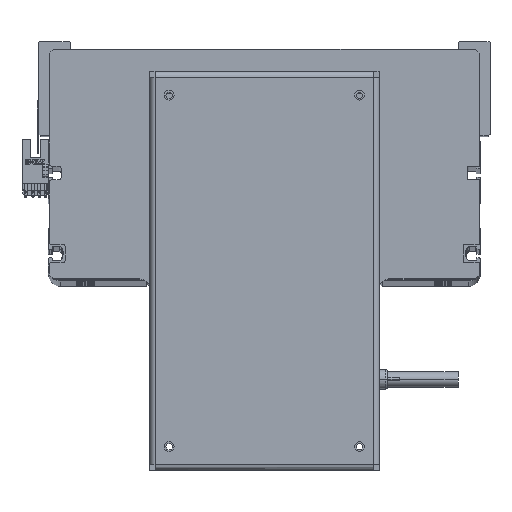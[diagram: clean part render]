
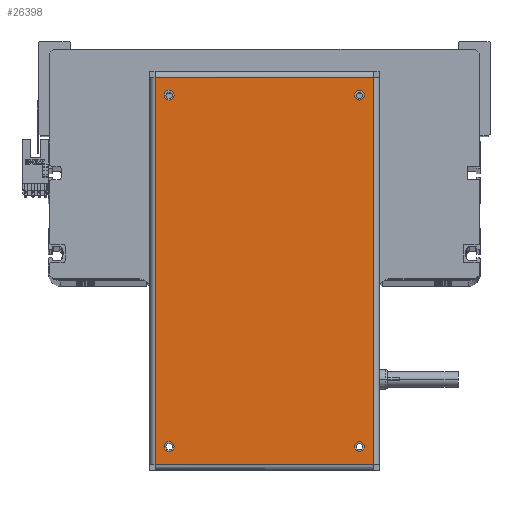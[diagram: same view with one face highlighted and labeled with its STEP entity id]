
A CAD part, top view. The second image highlights one B-rep face of the part: STEP entity #26398.
In plain terms, the highlighted planar face has unit normal (0, 0, 1).
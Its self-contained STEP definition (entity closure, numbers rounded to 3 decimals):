
#135 = AXIS2_PLACEMENT_3D ( 'NONE', #20841, #33473, #13725 ) ;
#475 = VERTEX_POINT ( 'NONE', #2406 ) ;
#537 = CARTESIAN_POINT ( 'NONE',  ( 98.75, 55.6, 0. ) ) ;
#932 = EDGE_LOOP ( 'NONE', ( #16877, #10196 ) ) ;
#1059 = VERTEX_POINT ( 'NONE', #30008 ) ;
#1129 = CARTESIAN_POINT ( 'NONE',  ( -92.05, 48.5, 0. ) ) ;
#1439 = EDGE_CURVE ( 'NONE', #4990, #24558, #30830, .T. ) ;
#1557 = VECTOR ( 'NONE', #33724, 1000. ) ;
#1594 = CARTESIAN_POINT ( 'NONE',  ( 89.55, -48.5, 0. ) ) ;
#1600 = ORIENTED_EDGE ( 'NONE', *, *, #21451, .T. ) ;
#1888 = CIRCLE ( 'NONE', #24452, 2.5 ) ;
#2319 = EDGE_CURVE ( 'NONE', #30856, #35644, #24113, .T. ) ;
#2388 = EDGE_CURVE ( 'NONE', #24558, #22974, #25666, .T. ) ;
#2406 = CARTESIAN_POINT ( 'NONE',  ( 87.05, 48.5, 0. ) ) ;
#2407 = CARTESIAN_POINT ( 'NONE',  ( -98.75, -55.6, 0. ) ) ;
#3273 = EDGE_LOOP ( 'NONE', ( #18484, #40506 ) ) ;
#3680 = EDGE_LOOP ( 'NONE', ( #28717, #25902 ) ) ;
#3904 = VECTOR ( 'NONE', #22396, 1000. ) ;
#4237 = CARTESIAN_POINT ( 'NONE',  ( -98.65, 55.6, 0. ) ) ;
#4449 = DIRECTION ( 'NONE',  ( 1., 0., 0. ) ) ;
#4815 = VERTEX_POINT ( 'NONE', #25531 ) ;
#4892 = DIRECTION ( 'NONE',  ( 0., 0., 1. ) ) ;
#4990 = VERTEX_POINT ( 'NONE', #29799 ) ;
#5201 = EDGE_CURVE ( 'NONE', #4815, #475, #39799, .T. ) ;
#5520 = VERTEX_POINT ( 'NONE', #30619 ) ;
#8763 = CARTESIAN_POINT ( 'NONE',  ( -89.55, 48.5, 0. ) ) ;
#8903 = EDGE_CURVE ( 'NONE', #15174, #5520, #13067, .T. ) ;
#10196 = ORIENTED_EDGE ( 'NONE', *, *, #32934, .F. ) ;
#10446 = DIRECTION ( 'NONE',  ( 1., 0., 0. ) ) ;
#10541 = FACE_BOUND ( 'NONE', #3273, .T. ) ;
#10625 = DIRECTION ( 'NONE',  ( 0., -1., 0. ) ) ;
#11928 = ORIENTED_EDGE ( 'NONE', *, *, #2388, .T. ) ;
#12598 = EDGE_CURVE ( 'NONE', #12975, #16959, #1888, .T. ) ;
#12975 = VERTEX_POINT ( 'NONE', #32697 ) ;
#13067 = CIRCLE ( 'NONE', #23516, 2.5 ) ;
#13561 = DIRECTION ( 'NONE',  ( -1., 0., 0. ) ) ;
#13725 = DIRECTION ( 'NONE',  ( -1., 0., 0. ) ) ;
#13786 = CARTESIAN_POINT ( 'NONE',  ( -89.55, -48.5, 0. ) ) ;
#13973 = LINE ( 'NONE', #37145, #1557 ) ;
#14802 = DIRECTION ( 'NONE',  ( 0., 0., 1. ) ) ;
#15174 = VERTEX_POINT ( 'NONE', #24128 ) ;
#15264 = EDGE_CURVE ( 'NONE', #16959, #12975, #42324, .T. ) ;
#15353 = EDGE_CURVE ( 'NONE', #475, #4815, #23049, .T. ) ;
#16454 = CARTESIAN_POINT ( 'NONE',  ( -98.65, -55.6, 0. ) ) ;
#16877 = ORIENTED_EDGE ( 'NONE', *, *, #8903, .F. ) ;
#16959 = VERTEX_POINT ( 'NONE', #37139 ) ;
#17256 = FACE_BOUND ( 'NONE', #3680, .T. ) ;
#17516 = LINE ( 'NONE', #537, #23738 ) ;
#18484 = ORIENTED_EDGE ( 'NONE', *, *, #5201, .F. ) ;
#19622 = DIRECTION ( 'NONE',  ( 0., 0., 1. ) ) ;
#20841 = CARTESIAN_POINT ( 'NONE',  ( 98.75, 58.5, 0. ) ) ;
#20959 = AXIS2_PLACEMENT_3D ( 'NONE', #25277, #31594, #31729 ) ;
#21446 = FACE_BOUND ( 'NONE', #932, .T. ) ;
#21451 = EDGE_CURVE ( 'NONE', #22974, #1059, #13973, .T. ) ;
#21735 = CARTESIAN_POINT ( 'NONE',  ( 98.65, -55.6, 0. ) ) ;
#22396 = DIRECTION ( 'NONE',  ( 1., 0., 0. ) ) ;
#22543 = CARTESIAN_POINT ( 'NONE',  ( -87.05, 48.5, 0. ) ) ;
#22974 = VERTEX_POINT ( 'NONE', #21735 ) ;
#23049 = CIRCLE ( 'NONE', #20959, 2.5 ) ;
#23408 = EDGE_LOOP ( 'NONE', ( #42223, #24139 ) ) ;
#23516 = AXIS2_PLACEMENT_3D ( 'NONE', #13786, #26356, #36404 ) ;
#23738 = VECTOR ( 'NONE', #13561, 1000. ) ;
#24113 = CIRCLE ( 'NONE', #40700, 2.5 ) ;
#24128 = CARTESIAN_POINT ( 'NONE',  ( -87.05, -48.5, 0. ) ) ;
#24139 = ORIENTED_EDGE ( 'NONE', *, *, #12598, .F. ) ;
#24452 = AXIS2_PLACEMENT_3D ( 'NONE', #40286, #36959, #10446 ) ;
#24558 = VERTEX_POINT ( 'NONE', #16454 ) ;
#25046 = CARTESIAN_POINT ( 'NONE',  ( 89.55, 48.5, 0. ) ) ;
#25277 = CARTESIAN_POINT ( 'NONE',  ( 89.55, 48.5, 0. ) ) ;
#25531 = CARTESIAN_POINT ( 'NONE',  ( 92.05, 48.5, 0. ) ) ;
#25666 = LINE ( 'NONE', #2407, #3904 ) ;
#25852 = DIRECTION ( 'NONE',  ( 1., 0., 0. ) ) ;
#25902 = ORIENTED_EDGE ( 'NONE', *, *, #29842, .F. ) ;
#26356 = DIRECTION ( 'NONE',  ( 0., 0., 1. ) ) ;
#26398 = ADVANCED_FACE ( 'NONE', ( #21446, #17256, #42529, #10541, #29148 ), #39940, .F. ) ;
#27302 = AXIS2_PLACEMENT_3D ( 'NONE', #1594, #4892, #4449 ) ;
#27639 = DIRECTION ( 'NONE',  ( 1., 0., 0. ) ) ;
#27917 = CARTESIAN_POINT ( 'NONE',  ( -89.55, -48.5, 0. ) ) ;
#28372 = ORIENTED_EDGE ( 'NONE', *, *, #41580, .T. ) ;
#28717 = ORIENTED_EDGE ( 'NONE', *, *, #2319, .F. ) ;
#29071 = AXIS2_PLACEMENT_3D ( 'NONE', #38757, #19622, #25852 ) ;
#29148 = FACE_OUTER_BOUND ( 'NONE', #38280, .T. ) ;
#29799 = CARTESIAN_POINT ( 'NONE',  ( -98.65, 55.6, 0. ) ) ;
#29842 = EDGE_CURVE ( 'NONE', #35644, #30856, #41690, .T. ) ;
#30008 = CARTESIAN_POINT ( 'NONE',  ( 98.65, 55.6, 0. ) ) ;
#30619 = CARTESIAN_POINT ( 'NONE',  ( -92.05, -48.5, 0. ) ) ;
#30830 = LINE ( 'NONE', #4237, #33946 ) ;
#30856 = VERTEX_POINT ( 'NONE', #22543 ) ;
#31594 = DIRECTION ( 'NONE',  ( 0., 0., 1. ) ) ;
#31729 = DIRECTION ( 'NONE',  ( 1., 0., 0. ) ) ;
#31836 = DIRECTION ( 'NONE',  ( 0., 0., 1. ) ) ;
#32697 = CARTESIAN_POINT ( 'NONE',  ( 87.05, -48.5, 0. ) ) ;
#32934 = EDGE_CURVE ( 'NONE', #5520, #15174, #36701, .T. ) ;
#33473 = DIRECTION ( 'NONE',  ( 0., 0., -1. ) ) ;
#33724 = DIRECTION ( 'NONE',  ( 0., 1., 0. ) ) ;
#33946 = VECTOR ( 'NONE', #10625, 1000. ) ;
#35095 = DIRECTION ( 'NONE',  ( 1., 0., 0. ) ) ;
#35644 = VERTEX_POINT ( 'NONE', #1129 ) ;
#36402 = ORIENTED_EDGE ( 'NONE', *, *, #1439, .T. ) ;
#36404 = DIRECTION ( 'NONE',  ( 1., 0., 0. ) ) ;
#36701 = CIRCLE ( 'NONE', #38228, 2.5 ) ;
#36959 = DIRECTION ( 'NONE',  ( 0., 0., 1. ) ) ;
#37139 = CARTESIAN_POINT ( 'NONE',  ( 92.05, -48.5, 0. ) ) ;
#37145 = CARTESIAN_POINT ( 'NONE',  ( 98.65, -55.6, 0. ) ) ;
#38228 = AXIS2_PLACEMENT_3D ( 'NONE', #27917, #41153, #27639 ) ;
#38280 = EDGE_LOOP ( 'NONE', ( #36402, #11928, #1600, #28372 ) ) ;
#38757 = CARTESIAN_POINT ( 'NONE',  ( -89.55, 48.5, 0. ) ) ;
#39799 = CIRCLE ( 'NONE', #39924, 2.5 ) ;
#39924 = AXIS2_PLACEMENT_3D ( 'NONE', #25046, #14802, #35095 ) ;
#39940 = PLANE ( 'NONE',  #135 ) ;
#40286 = CARTESIAN_POINT ( 'NONE',  ( 89.55, -48.5, 0. ) ) ;
#40506 = ORIENTED_EDGE ( 'NONE', *, *, #15353, .F. ) ;
#40700 = AXIS2_PLACEMENT_3D ( 'NONE', #8763, #31836, #41516 ) ;
#41153 = DIRECTION ( 'NONE',  ( 0., 0., 1. ) ) ;
#41516 = DIRECTION ( 'NONE',  ( 1., 0., 0. ) ) ;
#41580 = EDGE_CURVE ( 'NONE', #1059, #4990, #17516, .T. ) ;
#41690 = CIRCLE ( 'NONE', #29071, 2.5 ) ;
#42223 = ORIENTED_EDGE ( 'NONE', *, *, #15264, .F. ) ;
#42324 = CIRCLE ( 'NONE', #27302, 2.5 ) ;
#42529 = FACE_BOUND ( 'NONE', #23408, .T. ) ;
